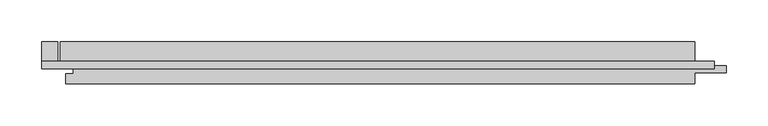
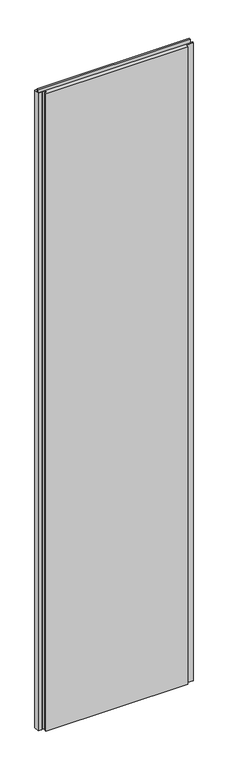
"""IFC4 building model written with IfcOpenShell, lengths in millimetres: plate geometry, Trimo_Qbiss Screen_Normal Panel-VERTICAL : HR - B."""

from ifc_helpers import new_model, si_unit, frame, origin, place, context, project, spatial, polyline, outline, extrude, source, transform, mapped, element, save


def plate_4451879e(model_context):
    return source(origin(), model_context, "Body", "SweptSolid", [
        extrude(outline(polyline([(-338.0, 97.0), (-338.0, 126.0), (-319.0, 126.0), (-319.0, 97.0), (-338.0, 97.0)])), frame((0.0, 0.0, 12.5), z_axis=(0.0, 0.0, 1.0), x_axis=(1.0, 0.0, 0.0)), (0.0, 0.0, 1.0), 3575.0),
        extrude(outline(polyline([(445.0, 97.0), (445.0, 102.6), (466.0, 102.6), (466.0, 97.0), (445.0, 97.0)])), frame((0.0, 0.0, 12.5), z_axis=(0.0, 0.0, 1.0), x_axis=(1.0, 0.0, 0.0)), (0.0, 0.0, 1.0), 3575.0),
        extrude(outline(polyline([(-338.0, 93.9), (-338.0, 102.6), (467.0, 102.6), (467.0, 93.9), (-338.0, 93.9)])), frame((0.0, 0.0, 3590.5), z_axis=(0.0, 0.0, 1.0), x_axis=(1.0, 0.0, 0.0)), (0.0, 0.0, 1.0), 19.0),
        extrude(outline(polyline([(444.0, 97.0), (481.5, 97.0), (481.5, 89.0), (444.0, 89.0), (444.0, 76.0), (-309.0, 76.0), (-309.0, 88.0), (-300.5, 88.0), (-300.5, 98.0), (-316.0, 98.0), (-316.0, 126.0), (444.0, 126.0), (444.0, 97.0)])), frame((0.0, 0.0, 12.5), z_axis=(0.0, 0.0, 1.0), x_axis=(1.0, 0.0, 0.0)), (0.0, 0.0, 1.0), 3575.0),
    ])


if __name__ == "__main__":
    model = new_model("IFC4")
    model_context = context("Model", 3, world=origin())
    ifc_project = project(units=[si_unit("LENGTHUNIT", "METRE", prefix="MILLI")], contexts=[model_context])
    site = spatial("IfcSite", under=ifc_project)
    building = spatial("IfcBuilding", under=site)
    placement = place(None, origin())
    plate_shape = plate_4451879e(model_context)
    element("IfcPlate", 1, ObjectType="Trimo_Qbiss Screen_Normal Panel-VERTICAL : HR - B", at=placement, inside=building, context=model_context, shape_type="MappedRepresentation", body=[
        mapped(plate_shape, transform((0.0, 0.0, 0.0), x_axis=(1.0, 0.0, 0.0), y_axis=(0.0, 1.0, 0.0), z_axis=(0.0, 0.0, 1.0))),
    ])
    save(model, "model.ifc")
